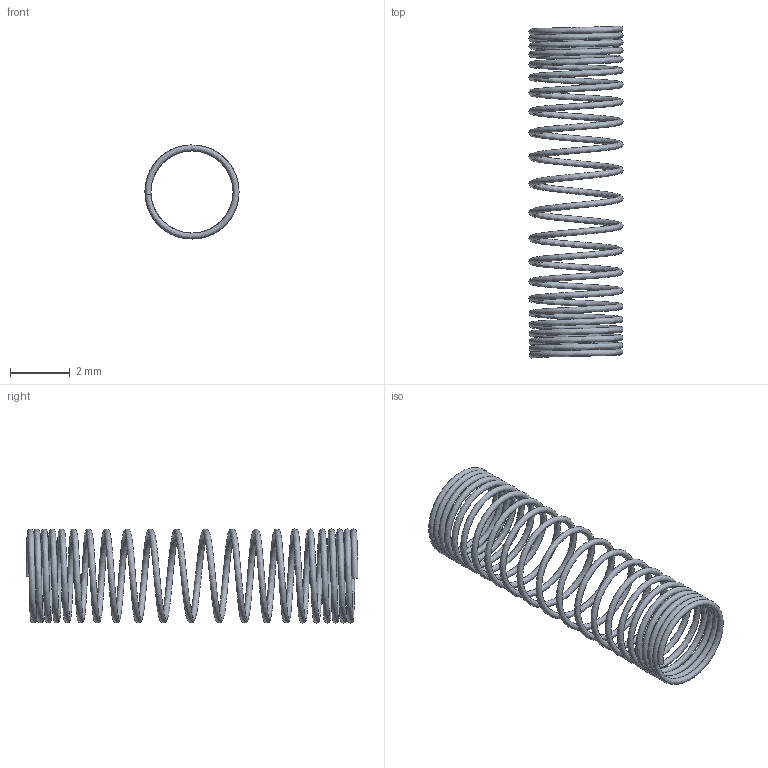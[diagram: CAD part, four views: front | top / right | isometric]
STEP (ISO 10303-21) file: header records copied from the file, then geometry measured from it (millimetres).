
FILE_DESCRIPTION(/* description */ ('STEP AP242 Edition 2','CAx-IF Rec.Pracs.---Representation and Presentation of Product Manufacturing Information (PMI)---4.0---2014-10-13','CAx-IF Rec.Pracs.---3D Tessellated Geometry---0.4---2014-09-14','2;1','CAx-IF Rec.Pracs.---User Defined Attributes---1.5---2016-08-15'),/* implementation_level */ '2;1');
FILE_NAME(/* name */ 'Assembly 1 - Part 106',/* time_stamp */ '2026-03-29T21:14:56Z',/* author */ (''),/* organization */ (''),/* preprocessor_version */ 'ST-DEVELOPER v20',/* originating_system */ 'ONSHAPE BY PTC INC, 1.212',/* authorisation */ ' ');
FILE_SCHEMA (('AP242_MANAGED_MODEL_BASED_3D_ENGINEERING_MIM_LF { 1 0 10303 442 3 1 4 }'));
Length unit declared in the file: metre
Products named in the file (1): Part 106
Bounding box: 3.15 x 11.12 x 3.15 mm (x, y, z)
Surface area: 122.9 mm2 (no closed solid volume)
Topology: 0 solids, 1 shells, 1 faces, 0 edges, 0 vertices
Faces by surface type: other 1
Entity records: 31 total; most frequent: DIRECTION 2, SHAPE_REPRESENTATION_RELATIONSHIP 1, TESSELLATED_SHAPE_REPRESENTATION 1, STYLED_ITEM 1, PRESENTATION_STYLE_ASSIGNMENT 1, SURFACE_STYLE_USAGE 1, SURFACE_SIDE_STYLE 1, SURFACE_STYLE_FILL_AREA 1
